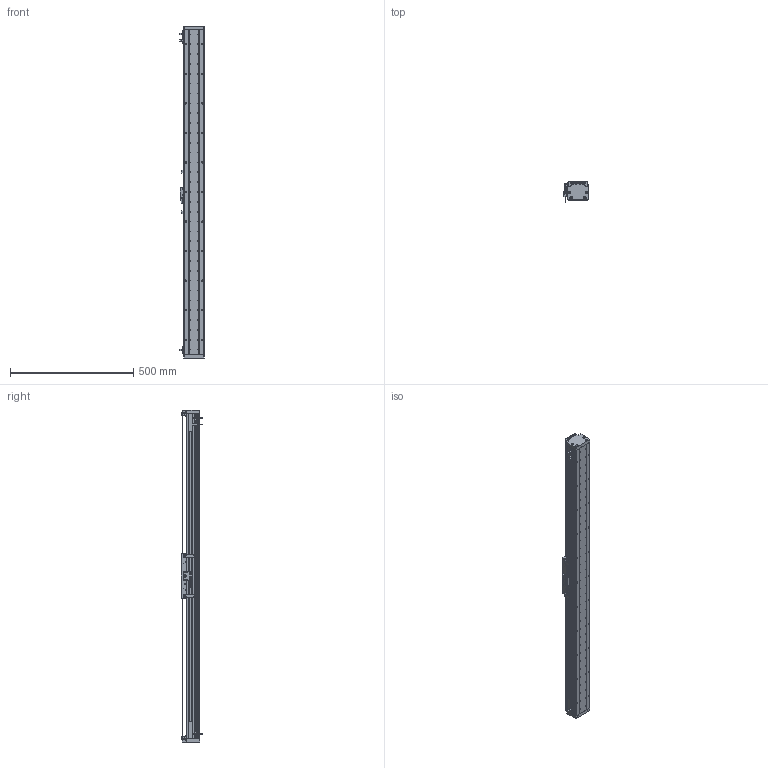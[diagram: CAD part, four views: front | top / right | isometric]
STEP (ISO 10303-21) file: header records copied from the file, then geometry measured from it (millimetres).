
FILE_DESCRIPTION (( 'STEP AP203' ), '1' );
FILE_NAME ('DA-A82-B2-T1100-C010-0.2 眻盄萇儂.STEP', '2025-08-13T03:08:27', ( '' ), ( '' ), 'SwSTEP 2.0', 'SolidWorks 2019', '' );
FILE_SCHEMA (( 'CONFIG_CONTROL_DESIGN' ));
Length unit declared in the file: millimetre
Products named in the file (23): AU82-HT-M-00 賑雄怢啣; 复件 复件 17517-0000-004-00  钢带压块^DA-A82-B2-T-C010-0.2(默认); AU82-M 幗紩賑怢; 葩璃 XD-U-02  棠掑喜^DA-A82-B2-T-C010-0.2; AU82-M-00 珨极趙賑雄怢啣; IU-AU82-L-00 菁釱(L1320); 葩璃 DMT-010 1米m 0.2M^DA-A82-B2-T-C010-0.2; 复件 DA95-GT-T-00 底座钢轨^IU-AU82-L 底座导轨; 葩璃 BKM01-W040-TRL^DA-A82-B2-T-C010-0.2; 复件 纯铜油杯 6x6mm^AU82-M 滚珠滑台; 葩璃 PM-T45^DA-A82-B2-T-C010-0.2; ｸｴｼ BKM02-W040-C1-TP-DA-3.0 ﾖｱﾏﾟｵ扈巐ｯﾗﾓ^DA-A82-B2-T-C010-0.2; IU-AU82-L 菁釱絳寢; 复件 复件 DA82-XJ-00 缓冲橡胶^DA-A82-B2-T-C010-0.2; 葩璃 葩璃 17517-0000-002-00 傷啣^DA-A82-B2-T-C010-0.2; 葩璃 鞠褒情蹟譫 M3^DA-A82-B2-T-C010-0.2; 复件 复件 复件 DA82 钢带盖板^DA-A82-B2-T-C010-0.2(默认); DA-A60-GYP-DMT-00 光电感应片^DA-A82-B2-T-C010-0.2(默认); 复件 复件 17517-0000-003-00 钢带拉块^DA-A82-B2-T-C010-0.2; 葩璃 DA60-DMT-DTJ-00 黍杅芛盓殤^DA-A82-B2-T-C010-0.2; 复件 DA95-B2-GT-00 滑块钢轨^AU82-M-00 一体化滑动台板; DA-A82-B2-T1100-C010-0.2 眻盄萇儂; 葩璃 DA82-B2-DP-00 結え^AU82-M 幗紩賑怢
Assembly tree (40 placements, depth 4):
  DA-A82-B2-T1100-C010-0.2 眻盄萇儂
    IU-AU82-L 菁釱絳寢
      IU-AU82-L-00 菁釱(L1320)
      复件 DA95-GT-T-00 底座钢轨^IU-AU82-L 底座导轨  x2
    AU82-M 幗紩賑怢
      AU82-M-00 珨极趙賑雄怢啣
        AU82-HT-M-00 賑雄怢啣
        复件 DA95-B2-GT-00 滑块钢轨^AU82-M-00 一体化滑动台板  x4
      葩璃 DA82-B2-DP-00 結え^AU82-M 幗紩賑怢  x2
      复件 纯铜油杯 6x6mm^AU82-M 滚珠滑台  x2
    葩璃 DA60-DMT-DTJ-00 黍杅芛盓殤^DA-A82-B2-T-C010-0.2
    葩璃 DMT-010 1米m 0.2M^DA-A82-B2-T-C010-0.2
    DA-A60-GYP-DMT-00 光电感应片^DA-A82-B2-T-C010-0.2(默认)  x2
    ｸｴｼ BKM02-W040-C1-TP-DA-3.0 ﾖｱﾏﾟｵ扈巐ｯﾗﾓ^DA-A82-B2-T-C010-0.2
    复件 复件 17517-0000-003-00 钢带拉块^DA-A82-B2-T-C010-0.2  x2
    复件 复件 DA82-XJ-00 缓冲橡胶^DA-A82-B2-T-C010-0.2  x2
    复件 复件 17517-0000-004-00  钢带压块^DA-A82-B2-T-C010-0.2(默认)  x2
    葩璃 葩璃 17517-0000-002-00 傷啣^DA-A82-B2-T-C010-0.2  x2
    复件 复件 复件 DA82 钢带盖板^DA-A82-B2-T-C010-0.2(默认)
    葩璃 BKM01-W040-TRL^DA-A82-B2-T-C010-0.2
    葩璃 PM-T45^DA-A82-B2-T-C010-0.2  x3
    葩璃 XD-U-02  棠掑喜^DA-A82-B2-T-C010-0.2
    葩璃 鞠褒情蹟譫 M3^DA-A82-B2-T-C010-0.2  x6
Bounding box: 98.95 x 87.2 x 1348 mm (x, y, z)
Volume: 3987724.9 mm3; surface area: 1204430.7 mm2
Topology: 44 solids, 68 shells, 2279 faces, 5984 edges, 3762 vertices
Faces by surface type: cylinder 1089, plane 900, cone 272, bspline 8, torus 8, sphere 2
Entity records: 61537 total; most frequent: CARTESIAN_POINT 13623, DIRECTION 9671, ORIENTED_EDGE 9072, EDGE_CURVE 4536, AXIS2_PLACEMENT_3D 3685, VERTEX_POINT 2946, EDGE_LOOP 2314, LINE 2301
